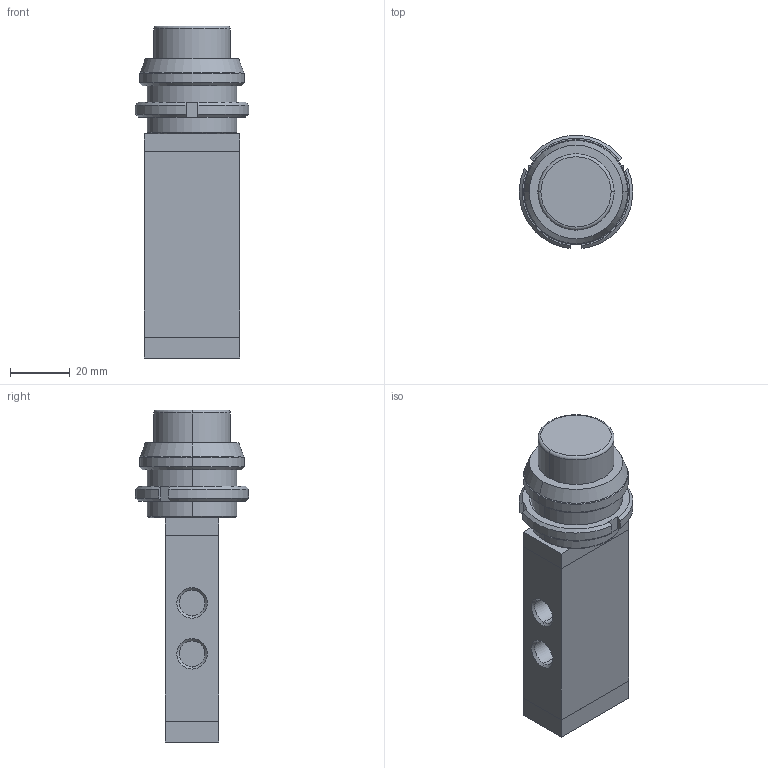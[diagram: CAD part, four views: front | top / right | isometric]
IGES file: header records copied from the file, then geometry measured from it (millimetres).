
Global section: file name: No Iges File Name specified; native system: AutoDesk Inventor R11.0; preprocessor: AutoDesk Inventor Iges Exporter R11.0; author: No Author specified; organization: No Organization specified; date: 20061219.114242; units: millimetre
Bounding box: 37.89 x 37.82 x 111 mm (x, y, z)
Volume: 67811.8 mm3; surface area: 15479.8 mm2
Topology: 2 solids, 2 shells, 89 faces, 200 edges, 124 vertices
Faces by surface type: plane 33, bspline 29, cone 14, cylinder 9, torus 2, revolution 2
